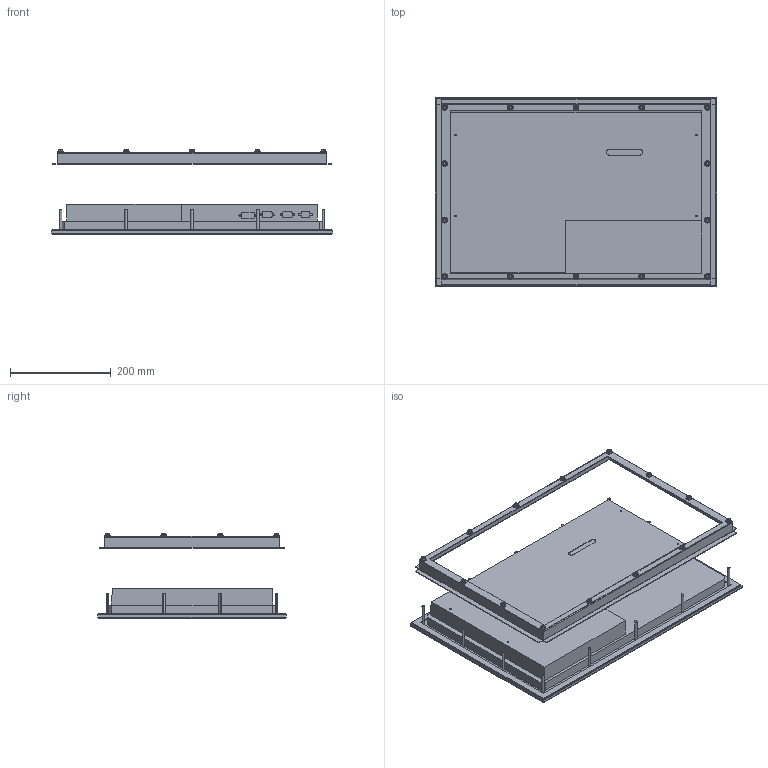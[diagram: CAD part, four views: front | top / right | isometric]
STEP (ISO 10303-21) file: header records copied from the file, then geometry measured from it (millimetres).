
FILE_DESCRIPTION (( 'STEP AP214' ), '1' );
FILE_NAME ('22 inch Panel Mount Monitor, HIS-ML22-xxxB.STEP', '2017-06-23T19:18:17', ( '' ), ( '' ), 'SwSTEP 2.0', 'SolidWorks 2017', '' );
FILE_SCHEMA (( 'AUTOMOTIVE_DESIGN' ));
Length unit declared in the file: millimetre
Products named in the file (4): M5 Nut, 30008_M5 Nut - 30008; Collar, 10767; Monitor, 22B; 22 inch Panel Mount Monitor, HIS-ML22-xxxB
Assembly tree (16 placements, depth 2):
  22 inch Panel Mount Monitor, HIS-ML22-xxxB
    Monitor, 22B
    Collar, 10767
    M5 Nut, 30008_M5 Nut - 30008  x14
Bounding box: 558.8 x 374.65 x 167.39 mm (x, y, z)
Volume: 8899812.2 mm3; surface area: 1313725 mm2
Topology: 18 solids, 18 shells, 725 faces, 1624 edges, 960 vertices
Faces by surface type: plane 255, cone 176, cylinder 174, bspline 92, torus 28
Entity records: 9510 total; most frequent: CARTESIAN_POINT 2182, DIRECTION 1516, ORIENTED_EDGE 1412, EDGE_CURVE 706, AXIS2_PLACEMENT_3D 548, VERTEX_POINT 440, VECTOR 420, LINE 420
